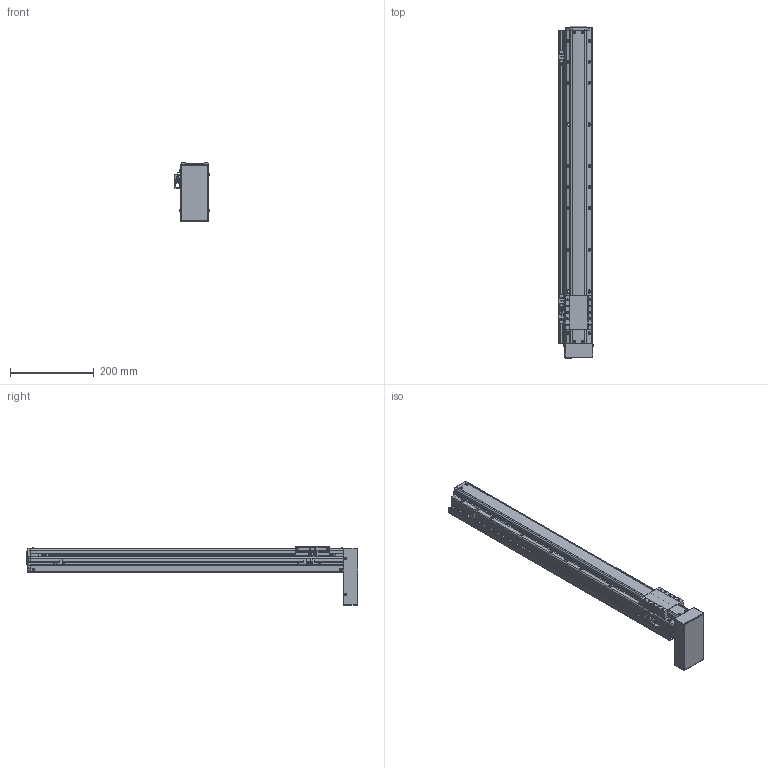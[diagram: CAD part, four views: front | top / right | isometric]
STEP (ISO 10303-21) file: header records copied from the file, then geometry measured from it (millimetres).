
FILE_DESCRIPTION(('STEP AP214'),'1');
FILE_NAME('Z:/Web/3D/PSA65/STP/PSA65-600 (3D)/PSA65ㅁㅁ-600PB+3SL.stp','2014-06-25T05:11:44',(' '),(' '),'Spatial InterOp 3D',' ',' ');
FILE_SCHEMA(('automotive_design'));
Length unit declared in the file: millimetre
Products named in the file (67): SLIDE; RRCV-PA060; 1; 2; 3; 4; 5; 6; 7; 8; 9; 10; 11; 12; 13; 14; 15; 16; 17; 18; 19; 20; 21; 22; 23; 24; 25; 26; 27; 28; 29; 30; 31; 스크루 : Round - M3.0 x 8.0; RN8 x 0.75; SHAFT-SAN65; BASE; 스크루 : Round - M3.0 x 6.0; BTCV-SAN65; M3.0 x 6.0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
Bounding box: 84.06 x 794.8 x 139 mm (x, y, z)
Volume: 2716926.4 mm3; surface area: 428960.8 mm2
Topology: 67 solids, 67 shells, 2284 faces, 6023 edges, 3868 vertices
Faces by surface type: plane 1395, cylinder 605, cone 199, sphere 50, bspline 19, torus 16
Entity records: 90454 total; most frequent: CARTESIAN_POINT 13851, DIRECTION 12146, ORIENTED_EDGE 11794, EDGE_CURVE 5897, LINE 4140, VECTOR 4140, AXIS2_PLACEMENT_3D 4003, VERTEX_POINT 3868
